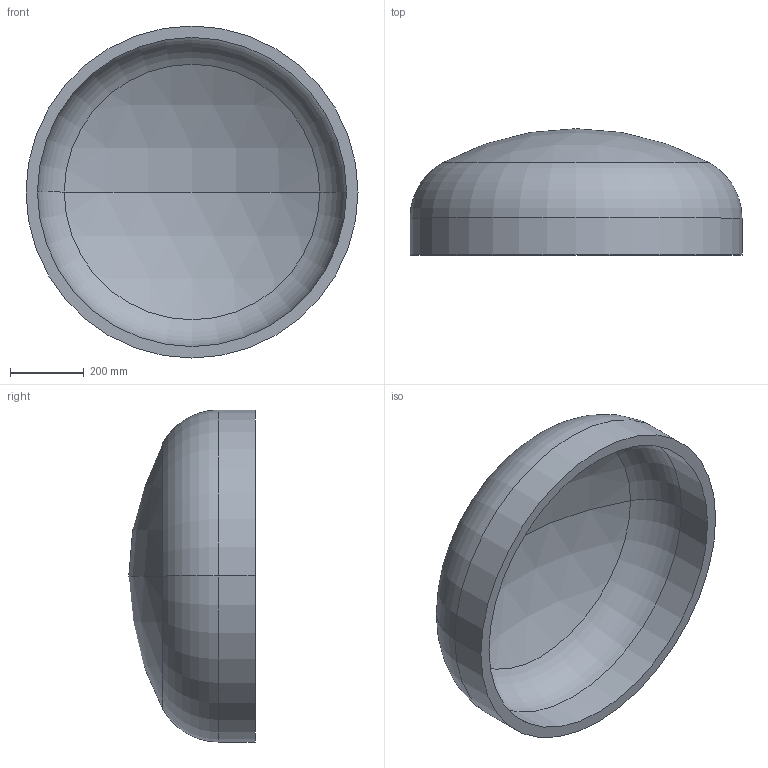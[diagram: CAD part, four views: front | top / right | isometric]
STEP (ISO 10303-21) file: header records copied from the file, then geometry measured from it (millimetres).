
FILE_DESCRIPTION (( 'STEP AP203' ), '1' );
FILE_NAME ('DIN 28013 Korbbogenform_-_Boden DIN 28013 - 900 x 100 - I - s=31.step', '2016-07-01T08:29:33', ( '' ), ( '' ), 'SwSTEP 2.0', 'SolidWorks 2013', '' );
FILE_SCHEMA (( 'CONFIG_CONTROL_DESIGN' ));
Length unit declared in the file: millimetre
Products named in the file (1): DIN 28013 Korbbogenform_-_Boden DIN 28013 - 900 x 100 - I - s=31
Bounding box: 900 x 342.51 x 900 mm (x, y, z)
Volume: 34632589.3 mm3; surface area: 2321004.1 mm2
Topology: 1 solids, 1 shells, 13 faces, 24 edges, 14 vertices
Faces by surface type: torus 4, cylinder 4, sphere 4, plane 1
Entity records: 407 total; most frequent: DIRECTION 72, CARTESIAN_POINT 52, ORIENTED_EDGE 48, AXIS2_PLACEMENT_3D 34, EDGE_CURVE 24, CIRCLE 20, EDGE_LOOP 14, VERTEX_POINT 14
